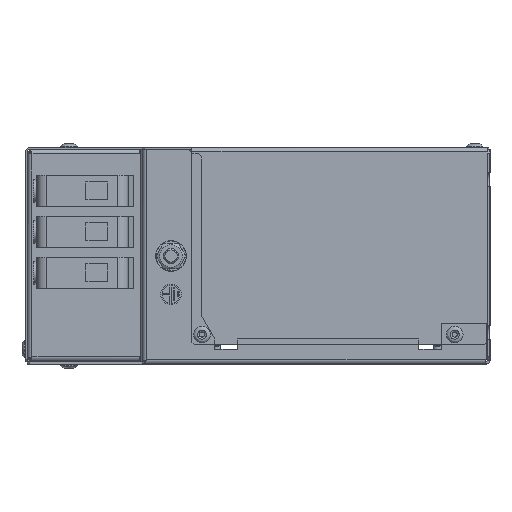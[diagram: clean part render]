
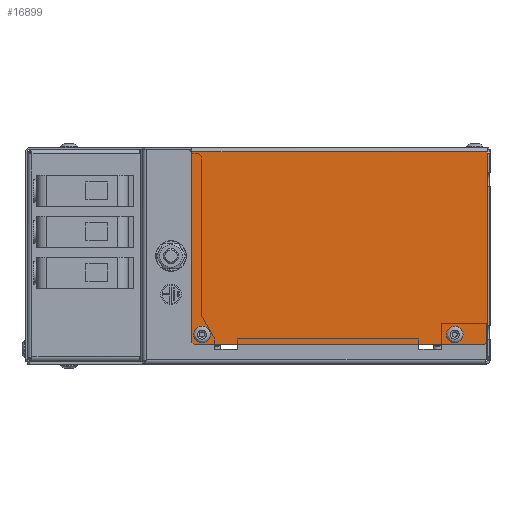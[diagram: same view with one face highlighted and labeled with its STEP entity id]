
A CAD part, left-side view. The second image highlights one B-rep face of the part: STEP entity #16899.
In plain terms, the highlighted planar face has unit normal (-1, 0, 0).
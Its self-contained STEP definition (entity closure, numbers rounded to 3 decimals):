
#1117=LINE('',#27025,#2398);
#1447=LINE('',#28758,#2728);
#1454=LINE('',#28770,#2735);
#1457=LINE('',#28775,#2738);
#1483=LINE('',#28825,#2764);
#1486=LINE('',#28834,#2767);
#2398=VECTOR('',#21457,10.);
#2728=VECTOR('',#22829,10.);
#2735=VECTOR('',#22840,10.);
#2738=VECTOR('',#22845,1.114);
#2764=VECTOR('',#22901,10.);
#2767=VECTOR('',#22916,10.);
#3383=PLANE('',#18501);
#3894=FACE_BOUND('',#6330,.T.);
#3895=FACE_BOUND('',#6331,.T.);
#4891=FACE_OUTER_BOUND('',#6329,.T.);
#6329=EDGE_LOOP('',(#14427,#14428,#14429,#14430,#14431,#14432));
#6330=EDGE_LOOP('',(#14433));
#6331=EDGE_LOOP('',(#14434));
#6977=CIRCLE('',#18362,3.25);
#7022=CIRCLE('',#18446,3.25);
#8139=VERTEX_POINT('',#27022);
#8140=VERTEX_POINT('',#27024);
#8347=VERTEX_POINT('',#28338);
#8392=VERTEX_POINT('',#28557);
#8454=VERTEX_POINT('',#28757);
#8456=VERTEX_POINT('',#28768);
#8457=VERTEX_POINT('',#28769);
#8458=VERTEX_POINT('',#28774);
#9903=EDGE_CURVE('',#8139,#8140,#1117,.T.);
#10316=EDGE_CURVE('',#8347,#8347,#6977,.T.);
#10364=EDGE_CURVE('',#8392,#8392,#7022,.T.);
#10449=EDGE_CURVE('',#8140,#8454,#1447,.T.);
#10456=EDGE_CURVE('',#8456,#8457,#1454,.T.);
#10459=EDGE_CURVE('',#8457,#8458,#1457,.T.);
#10485=EDGE_CURVE('',#8139,#8458,#1483,.T.);
#10491=EDGE_CURVE('',#8454,#8456,#1486,.T.);
#14427=ORIENTED_EDGE('',*,*,#10449,.F.);
#14428=ORIENTED_EDGE('',*,*,#9903,.F.);
#14429=ORIENTED_EDGE('',*,*,#10485,.T.);
#14430=ORIENTED_EDGE('',*,*,#10459,.F.);
#14431=ORIENTED_EDGE('',*,*,#10456,.F.);
#14432=ORIENTED_EDGE('',*,*,#10491,.F.);
#14433=ORIENTED_EDGE('',*,*,#10316,.T.);
#14434=ORIENTED_EDGE('',*,*,#10364,.T.);
#16899=ADVANCED_FACE('',(#4891,#3894,#3895),#3383,.T.);
#18362=AXIS2_PLACEMENT_3D('',#28339,#22522,#22523);
#18446=AXIS2_PLACEMENT_3D('',#28558,#22690,#22691);
#18501=AXIS2_PLACEMENT_3D('',#28835,#22917,#22918);
#21457=DIRECTION('',(0.,0.,-1.));
#22522=DIRECTION('center_axis',(1.,0.,0.));
#22523=DIRECTION('ref_axis',(0.,-0.002,
-1.));
#22690=DIRECTION('center_axis',(1.,0.,0.));
#22691=DIRECTION('ref_axis',(0.,-0.002,
-1.));
#22829=DIRECTION('',(0.,0.707,-0.707));
#22840=DIRECTION('',(0.,0.707,0.707));
#22845=DIRECTION('',(0.,0.,1.));
#22901=DIRECTION('',(0.,1.,0.));
#22916=DIRECTION('',(0.,1.,0.));
#22917=DIRECTION('center_axis',(-1.,0.,0.));
#22918=DIRECTION('ref_axis',(0.,0.,1.));
#27022=CARTESIAN_POINT('',(-118.7,1.,40.65));
#27024=CARTESIAN_POINT('',(-118.7,1.,-33.95));
#27025=CARTESIAN_POINT('',(-118.7,1.,40.65));
#28338=CARTESIAN_POINT('',(-118.7,13.806,-27.7));
#28339=CARTESIAN_POINT('Origin',(-118.7,13.8,-30.95));
#28557=CARTESIAN_POINT('',(-118.7,112.906,-27.7));
#28558=CARTESIAN_POINT('Origin',(-118.7,112.9,-30.95));
#28757=CARTESIAN_POINT('',(-118.7,2.,-34.95));
#28758=CARTESIAN_POINT('',(-118.7,6.306,-39.256));
#28768=CARTESIAN_POINT('',(-118.7,115.8,-34.95));
#28769=CARTESIAN_POINT('',(-118.7,116.8,-33.95));
#28770=CARTESIAN_POINT('',(-118.7,111.494,-39.256));
#28774=CARTESIAN_POINT('',(-118.7,116.8,40.65));
#28775=CARTESIAN_POINT('',(-118.7,116.8,44.15));
#28825=CARTESIAN_POINT('',(-118.7,58.9,40.65));
#28834=CARTESIAN_POINT('',(-118.7,1.,-34.95));
#28835=CARTESIAN_POINT('Origin',(-118.7,58.9,3.725));
